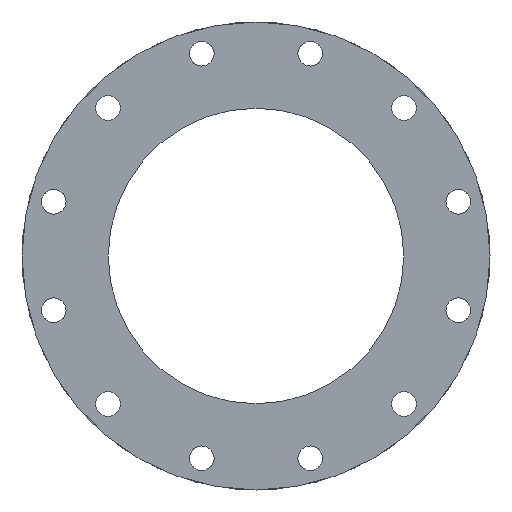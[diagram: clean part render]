
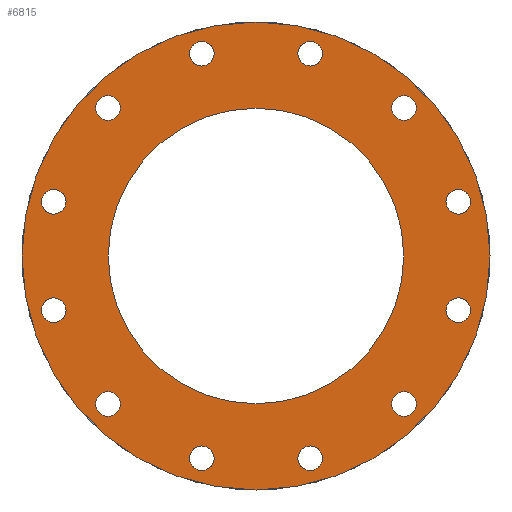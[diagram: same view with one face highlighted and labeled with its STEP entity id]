
A CAD part, left-side view. The second image highlights one B-rep face of the part: STEP entity #6815.
In plain terms, the highlighted planar face has unit normal (-1, 0, 0).
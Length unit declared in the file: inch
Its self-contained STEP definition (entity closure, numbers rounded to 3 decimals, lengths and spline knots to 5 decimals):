
#6432=CARTESIAN_POINT('',(-6.,6.26041,6.44342));
#6433=VERTEX_POINT('',#6432);
#6434=CARTESIAN_POINT('',(-6.,6.01041,6.01041));
#6435=DIRECTION('',(1.0,0.0,0.0));
#6436=DIRECTION('',(0.0,-0.5,-0.866));
#6437=AXIS2_PLACEMENT_3D('',#6434,#6435,#6436);
#6438=CIRCLE('',#6437,0.5);
#6439=EDGE_CURVE('',#6433,#6433,#6438,.T.);
#6460=CARTESIAN_POINT('',(-6.,8.64338,2.44996));
#6461=VERTEX_POINT('',#6460);
#6462=CARTESIAN_POINT('',(-6.,8.21037,2.19996));
#6463=DIRECTION('',(1.,0.0,0.0));
#6464=DIRECTION('',(0.0,-0.866,-0.5));
#6465=AXIS2_PLACEMENT_3D('',#6462,#6463,#6464);
#6466=CIRCLE('',#6465,0.5);
#6467=EDGE_CURVE('',#6461,#6461,#6466,.T.);
#6488=CARTESIAN_POINT('',(-6.,8.71037,-2.19996));
#6489=VERTEX_POINT('',#6488);
#6490=CARTESIAN_POINT('',(-6.,8.21037,-2.19996));
#6491=DIRECTION('',(1.0,0.0,0.0));
#6492=DIRECTION('',(0.0,-1.0,0.0));
#6493=AXIS2_PLACEMENT_3D('',#6490,#6491,#6492);
#6494=CIRCLE('',#6493,0.5);
#6495=EDGE_CURVE('',#6489,#6489,#6494,.T.);
#6516=CARTESIAN_POINT('',(-6.,6.44342,-6.26041));
#6517=VERTEX_POINT('',#6516);
#6518=CARTESIAN_POINT('',(-6.,6.01041,-6.01041));
#6519=DIRECTION('',(1.0,0.0,0.0));
#6520=DIRECTION('',(0.0,-0.866,0.5));
#6521=AXIS2_PLACEMENT_3D('',#6518,#6519,#6520);
#6522=CIRCLE('',#6521,0.5);
#6523=EDGE_CURVE('',#6517,#6517,#6522,.T.);
#6544=CARTESIAN_POINT('',(-6.,2.44996,-8.64338));
#6545=VERTEX_POINT('',#6544);
#6546=CARTESIAN_POINT('',(-6.,2.19996,-8.21037));
#6547=DIRECTION('',(1.0,0.0,0.0));
#6548=DIRECTION('',(0.0,-0.5,0.866));
#6549=AXIS2_PLACEMENT_3D('',#6546,#6547,#6548);
#6550=CIRCLE('',#6549,0.5);
#6551=EDGE_CURVE('',#6545,#6545,#6550,.T.);
#6572=CARTESIAN_POINT('',(-6.,-2.19996,-8.71037));
#6573=VERTEX_POINT('',#6572);
#6574=CARTESIAN_POINT('',(-6.,-2.19996,-8.21037));
#6575=DIRECTION('',(1.0,0.0,0.0));
#6576=DIRECTION('',(0.0,0.0,1.0));
#6577=AXIS2_PLACEMENT_3D('',#6574,#6575,#6576);
#6578=CIRCLE('',#6577,0.5);
#6579=EDGE_CURVE('',#6573,#6573,#6578,.T.);
#6600=CARTESIAN_POINT('',(-6.,-6.26041,-6.44342));
#6601=VERTEX_POINT('',#6600);
#6602=CARTESIAN_POINT('',(-6.,-6.01041,-6.01041));
#6603=DIRECTION('',(1.0,0.0,0.0));
#6604=DIRECTION('',(0.0,0.5,0.866));
#6605=AXIS2_PLACEMENT_3D('',#6602,#6603,#6604);
#6606=CIRCLE('',#6605,0.5);
#6607=EDGE_CURVE('',#6601,#6601,#6606,.T.);
#6628=CARTESIAN_POINT('',(-6.,-8.64338,-2.44996));
#6629=VERTEX_POINT('',#6628);
#6630=CARTESIAN_POINT('',(-6.,-8.21037,-2.19996));
#6631=DIRECTION('',(1.0,0.0,0.0));
#6632=DIRECTION('',(0.0,0.866,0.5));
#6633=AXIS2_PLACEMENT_3D('',#6630,#6631,#6632);
#6634=CIRCLE('',#6633,0.5);
#6635=EDGE_CURVE('',#6629,#6629,#6634,.T.);
#6656=CARTESIAN_POINT('',(-6.,-8.71037,2.19996));
#6657=VERTEX_POINT('',#6656);
#6658=CARTESIAN_POINT('',(-6.,-8.21037,2.19996));
#6659=DIRECTION('',(1.0,0.0,0.0));
#6660=DIRECTION('',(0.0,1.0,0.0));
#6661=AXIS2_PLACEMENT_3D('',#6658,#6659,#6660);
#6662=CIRCLE('',#6661,0.5);
#6663=EDGE_CURVE('',#6657,#6657,#6662,.T.);
#6684=CARTESIAN_POINT('',(-6.,-6.44342,6.26041));
#6685=VERTEX_POINT('',#6684);
#6686=CARTESIAN_POINT('',(-6.,-6.01041,6.01041));
#6687=DIRECTION('',(1.,0.0,0.0));
#6688=DIRECTION('',(0.0,0.866,-0.5));
#6689=AXIS2_PLACEMENT_3D('',#6686,#6687,#6688);
#6690=CIRCLE('',#6689,0.5);
#6691=EDGE_CURVE('',#6685,#6685,#6690,.T.);
#6712=CARTESIAN_POINT('',(-6.,-2.44996,8.64338));
#6713=VERTEX_POINT('',#6712);
#6714=CARTESIAN_POINT('',(-6.,-2.19996,8.21037));
#6715=DIRECTION('',(1.,0.0,0.0));
#6716=DIRECTION('',(0.0,0.5,-0.866));
#6717=AXIS2_PLACEMENT_3D('',#6714,#6715,#6716);
#6718=CIRCLE('',#6717,0.5);
#6719=EDGE_CURVE('',#6713,#6713,#6718,.T.);
#6740=CARTESIAN_POINT('',(-6.,2.19996,8.71037));
#6741=VERTEX_POINT('',#6740);
#6742=CARTESIAN_POINT('',(-6.,2.19996,8.21037));
#6743=DIRECTION('',(1.0,0.0,0.0));
#6744=DIRECTION('',(0.0,0.0,-1.0));
#6745=AXIS2_PLACEMENT_3D('',#6742,#6743,#6744);
#6746=CIRCLE('',#6745,0.5);
#6747=EDGE_CURVE('',#6741,#6741,#6746,.T.);
#6752=CARTESIAN_POINT('',(-6.,9.4375,0.0));
#6753=DIRECTION('',(-1.0,0.0,0.0));
#6754=DIRECTION('',(0.0,0.0,1.0));
#6755=AXIS2_PLACEMENT_3D('',#6752,#6753,#6754);
#6756=PLANE('',#6755);
#6757=CARTESIAN_POINT('',(-6.,9.5,0.0));
#6758=VERTEX_POINT('',#6757);
#6759=CARTESIAN_POINT('',(-6.,0.,0.0));
#6760=DIRECTION('',(1.0,0.0,0.0));
#6761=DIRECTION('',(0.0,1.0,0.0));
#6762=AXIS2_PLACEMENT_3D('',#6759,#6760,#6761);
#6763=CIRCLE('',#6762,9.5);
#6764=EDGE_CURVE('',#6758,#6758,#6763,.T.);
#6765=ORIENTED_EDGE('',*,*,#6764,.F.);
#6766=EDGE_LOOP('',(#6765));
#6767=FACE_OUTER_BOUND('',#6766,.T.);
#6768=ORIENTED_EDGE('',*,*,#6439,.T.);
#6769=EDGE_LOOP('',(#6768));
#6770=FACE_BOUND('',#6769,.T.);
#6771=ORIENTED_EDGE('',*,*,#6467,.T.);
#6772=EDGE_LOOP('',(#6771));
#6773=FACE_BOUND('',#6772,.T.);
#6774=ORIENTED_EDGE('',*,*,#6495,.T.);
#6775=EDGE_LOOP('',(#6774));
#6776=FACE_BOUND('',#6775,.T.);
#6777=ORIENTED_EDGE('',*,*,#6523,.T.);
#6778=EDGE_LOOP('',(#6777));
#6779=FACE_BOUND('',#6778,.T.);
#6780=ORIENTED_EDGE('',*,*,#6551,.T.);
#6781=EDGE_LOOP('',(#6780));
#6782=FACE_BOUND('',#6781,.T.);
#6783=ORIENTED_EDGE('',*,*,#6579,.T.);
#6784=EDGE_LOOP('',(#6783));
#6785=FACE_BOUND('',#6784,.T.);
#6786=ORIENTED_EDGE('',*,*,#6607,.T.);
#6787=EDGE_LOOP('',(#6786));
#6788=FACE_BOUND('',#6787,.T.);
#6789=ORIENTED_EDGE('',*,*,#6635,.T.);
#6790=EDGE_LOOP('',(#6789));
#6791=FACE_BOUND('',#6790,.T.);
#6792=ORIENTED_EDGE('',*,*,#6663,.T.);
#6793=EDGE_LOOP('',(#6792));
#6794=FACE_BOUND('',#6793,.T.);
#6795=ORIENTED_EDGE('',*,*,#6691,.T.);
#6796=EDGE_LOOP('',(#6795));
#6797=FACE_BOUND('',#6796,.T.);
#6798=ORIENTED_EDGE('',*,*,#6719,.T.);
#6799=EDGE_LOOP('',(#6798));
#6800=FACE_BOUND('',#6799,.T.);
#6801=ORIENTED_EDGE('',*,*,#6747,.T.);
#6802=EDGE_LOOP('',(#6801));
#6803=FACE_BOUND('',#6802,.T.);
#6804=CARTESIAN_POINT('',(-6.,6.,0.0));
#6805=VERTEX_POINT('',#6804);
#6806=CARTESIAN_POINT('',(-6.,0.,0.0));
#6807=DIRECTION('',(1.0,0.0,0.0));
#6808=DIRECTION('',(0.0,1.0,0.0));
#6809=AXIS2_PLACEMENT_3D('',#6806,#6807,#6808);
#6810=CIRCLE('',#6809,6.);
#6811=EDGE_CURVE('',#6805,#6805,#6810,.T.);
#6812=ORIENTED_EDGE('',*,*,#6811,.T.);
#6813=EDGE_LOOP('',(#6812));
#6814=FACE_BOUND('',#6813,.T.);
#6815=ADVANCED_FACE('',(#6767,#6770,#6773,#6776,#6779,#6782,#6785,#6788,#6791,#6794,#6797,#6800,#6803,#6814),#6756,.T.);
